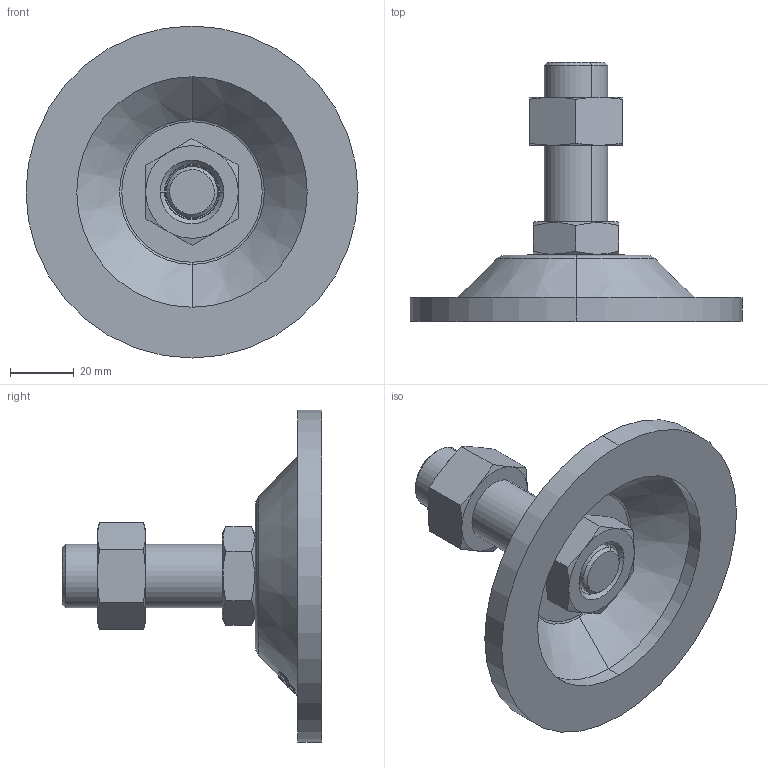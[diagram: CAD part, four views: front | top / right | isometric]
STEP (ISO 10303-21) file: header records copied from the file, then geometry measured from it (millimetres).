
FILE_DESCRIPTION (( 'STEP AP203' ), '1' );
FILE_NAME ('P-104-2050-BR.STEP', '2020-09-10T08:59:02', ( '' ), ( '' ), 'SwSTEP 2.0', 'SolidWorks 2016', '' );
FILE_SCHEMA (( 'CONFIG_CONTROL_DESIGN' ));
Length unit declared in the file: millimetre
Products named in the file (5): 脚垫调节六角螺母M20; 脚垫锁紧六角薄螺母M20; P-104-1菁釱-3P; P-104-2050-BR; 傲郈蹟裝M20炵蹈_M20X50
Assembly tree (4 placements, depth 2):
  P-104-2050-BR
    P-104-1菁釱-3P
    傲郈蹟裝M20炵蹈_M20X50
    脚垫锁紧六角薄螺母M20
    脚垫调节六角螺母M20
Bounding box: 104 x 81.2 x 104 mm (x, y, z)
Volume: 83247.8 mm3; surface area: 47443.7 mm2
Topology: 5 solids, 5 shells, 165 faces, 378 edges, 234 vertices
Faces by surface type: cone 57, bspline 38, plane 34, cylinder 20, torus 16
Entity records: 9387 total; most frequent: CARTESIAN_POINT 5514, ORIENTED_EDGE 756, DIRECTION 586, EDGE_CURVE 378, AXIS2_PLACEMENT_3D 260, VERTEX_POINT 234, B_SPLINE_CURVE_WITH_KNOTS 186, EDGE_LOOP 184
